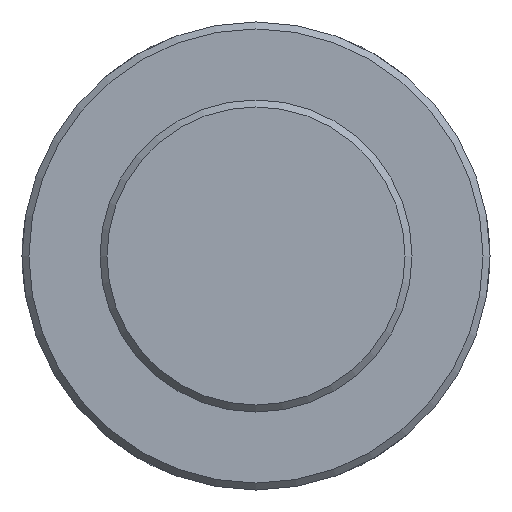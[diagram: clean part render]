
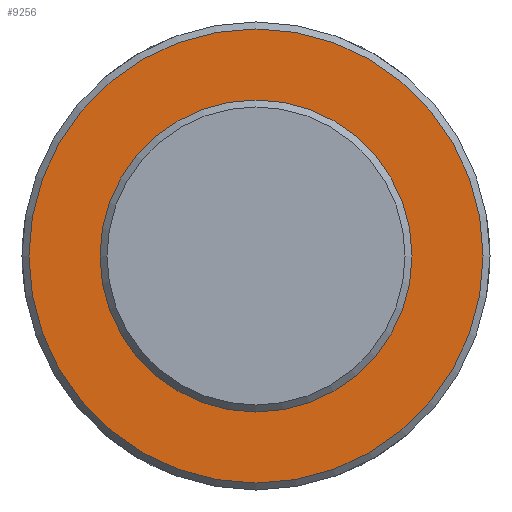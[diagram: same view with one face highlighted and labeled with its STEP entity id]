
A CAD part, front view. The second image highlights one B-rep face of the part: STEP entity #9256.
In plain terms, the highlighted planar face has unit normal (0, -1, 0) as drawn and (0, 1, 0) by its records, which use the part's own axes.
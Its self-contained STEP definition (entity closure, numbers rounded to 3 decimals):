
#73=CIRCLE('',#9637,65.5);
#424=PLANE('',#9640);
#919=FACE_OUTER_BOUND('',#1491,.T.);
#1491=EDGE_LOOP('',(#8522));
#4557=VERTEX_POINT('',#16628);
#5882=EDGE_CURVE('',#4557,#4557,#73,.T.);
#8522=ORIENTED_EDGE('',*,*,#5882,.F.);
#9256=ADVANCED_FACE('',(#919),#424,.T.);
#9637=AXIS2_PLACEMENT_3D('',#16629,#11128,#11129);
#9640=AXIS2_PLACEMENT_3D('',#16867,#11134,#11135);
#11128=DIRECTION('center_axis',(0.,-1.,0.));
#11129=DIRECTION('ref_axis',(1.,0.,0.));
#11134=DIRECTION('center_axis',(0.,1.,0.));
#11135=DIRECTION('ref_axis',(0.,0.,1.));
#16628=CARTESIAN_POINT('',(-65.5,57.5,0.));
#16629=CARTESIAN_POINT('Origin',(0.,57.5,0.));
#16867=CARTESIAN_POINT('Origin',(0.,57.5,0.));
